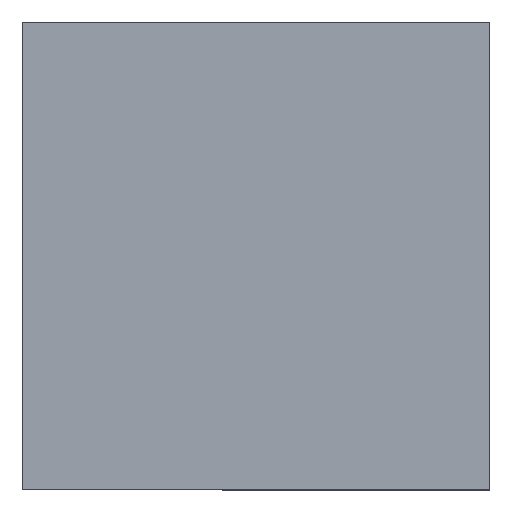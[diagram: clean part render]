
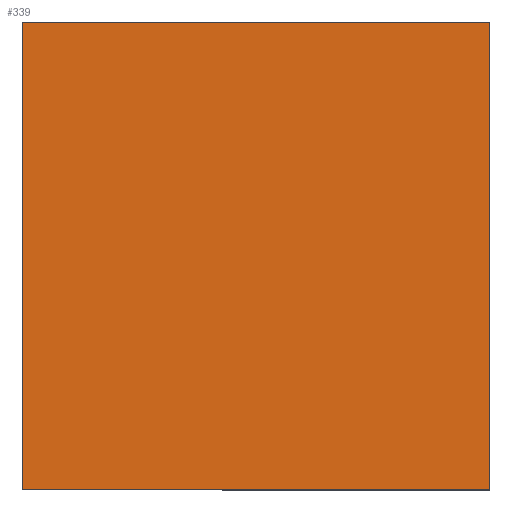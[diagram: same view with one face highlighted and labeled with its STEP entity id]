
A CAD part, top view. The second image highlights one B-rep face of the part: STEP entity #339.
In plain terms, the highlighted planar face has unit normal (0, 0, 1).
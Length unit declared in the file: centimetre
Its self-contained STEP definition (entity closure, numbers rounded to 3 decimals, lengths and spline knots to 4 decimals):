
#27 = CARTESIAN_POINT ( 'NONE',  ( 0., 1000., 1000. ) ) ;
#30 = EDGE_CURVE ( 'NONE', #255, #622, #373, .T. ) ;
#88 = CARTESIAN_POINT ( 'NONE',  ( 0., 0., 1000. ) ) ;
#94 = ORIENTED_EDGE ( 'NONE', *, *, #556, .T. ) ;
#100 = CARTESIAN_POINT ( 'NONE',  ( 0., 1000., 1000. ) ) ;
#115 = VECTOR ( 'NONE', #261, 100. ) ;
#164 = VERTEX_POINT ( 'NONE', #367 ) ;
#180 = ORIENTED_EDGE ( 'NONE', *, *, #30, .T. ) ;
#191 = PLANE ( 'NONE',  #332 ) ;
#216 = LINE ( 'NONE', #440, #235 ) ;
#235 = VECTOR ( 'NONE', #550, 100. ) ;
#255 = VERTEX_POINT ( 'NONE', #628 ) ;
#261 = DIRECTION ( 'NONE',  ( 0., -1., 0. ) ) ;
#263 = VECTOR ( 'NONE', #299, 100. ) ;
#272 = ORIENTED_EDGE ( 'NONE', *, *, #330, .T. ) ;
#294 = CARTESIAN_POINT ( 'NONE',  ( 1000., 1000., 1000. ) ) ;
#299 = DIRECTION ( 'NONE',  ( 1., 0., 0. ) ) ;
#318 = DIRECTION ( 'NONE',  ( 0., 0., 1. ) ) ;
#319 = ORIENTED_EDGE ( 'NONE', *, *, #541, .T. ) ;
#323 = LINE ( 'NONE', #100, #115 ) ;
#330 = EDGE_CURVE ( 'NONE', #428, #255, #323, .T. ) ;
#332 = AXIS2_PLACEMENT_3D ( 'NONE', #476, #318, #632 ) ;
#337 = EDGE_LOOP ( 'NONE', ( #272, #180, #319, #94 ) ) ;
#338 = LINE ( 'NONE', #294, #498 ) ;
#339 = ADVANCED_FACE ( 'NONE', ( #641 ), #191, .T. ) ;
#367 = CARTESIAN_POINT ( 'NONE',  ( 1000., 1000., 1000. ) ) ;
#373 = LINE ( 'NONE', #88, #263 ) ;
#399 = DIRECTION ( 'NONE',  ( 0., 1., 0. ) ) ;
#428 = VERTEX_POINT ( 'NONE', #27 ) ;
#440 = CARTESIAN_POINT ( 'NONE',  ( 0., 1000., 1000. ) ) ;
#476 = CARTESIAN_POINT ( 'NONE',  ( 0., 0., 1000. ) ) ;
#498 = VECTOR ( 'NONE', #399, 100. ) ;
#541 = EDGE_CURVE ( 'NONE', #622, #164, #338, .T. ) ;
#550 = DIRECTION ( 'NONE',  ( -1., 0., 0. ) ) ;
#556 = EDGE_CURVE ( 'NONE', #164, #428, #216, .T. ) ;
#622 = VERTEX_POINT ( 'NONE', #683 ) ;
#628 = CARTESIAN_POINT ( 'NONE',  ( 0., 0., 1000. ) ) ;
#632 = DIRECTION ( 'NONE',  ( 1., 0., 0. ) ) ;
#641 = FACE_OUTER_BOUND ( 'NONE', #337, .T. ) ;
#683 = CARTESIAN_POINT ( 'NONE',  ( 1000., 0., 1000. ) ) ;
